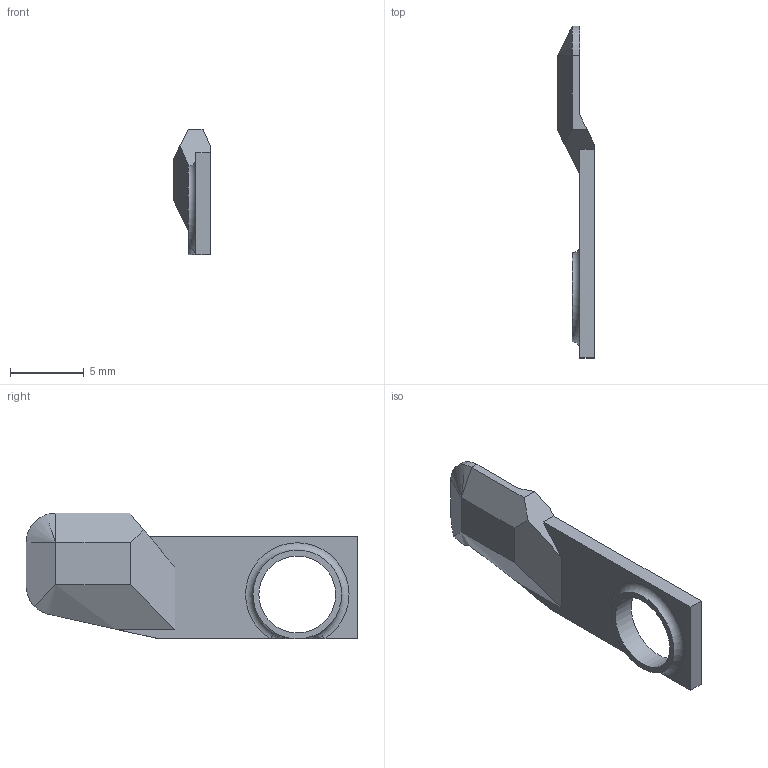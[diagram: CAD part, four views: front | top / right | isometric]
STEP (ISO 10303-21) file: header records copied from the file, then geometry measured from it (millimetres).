
FILE_DESCRIPTION(/* description */ (''),/* implementation_level */ '2;1');
FILE_NAME(/* name */ '/Users/nicolas/Desktop/Chariot Y NGEN Pulley bore 5mm/Flag endstop X.step',/* time_stamp */ '2021-01-24T22:20:22+01:00',/* author */ (''),/* organization */ (''),/* preprocessor_version */ 'ST-DEVELOPER v18.1',/* originating_system */ 'Autodesk Translation Framework v9.7.0.1280',/* authorisation */ '');
FILE_SCHEMA (('AUTOMOTIVE_DESIGN { 1 0 10303 214 3 1 1 }'));
Length unit declared in the file: millimetre
Products named in the file (1): Flag endstop X
Bounding box: 2.5 x 22.44 x 8.5 mm (x, y, z)
Volume: 153.4 mm3; surface area: 357.9 mm2
Topology: 1 solids, 1 shells, 25 faces, 63 edges, 37 vertices
Faces by surface type: plane 17, cylinder 4, bspline 2, torus 1, cone 1
Full cylindrical faces by diameter (mm): 5.2 x1
Entity records: 813 total; most frequent: CARTESIAN_POINT 195, ORIENTED_EDGE 120, DIRECTION 118, EDGE_CURVE 60, LINE 46, VECTOR 46, VERTEX_POINT 37, AXIS2_PLACEMENT_3D 36
